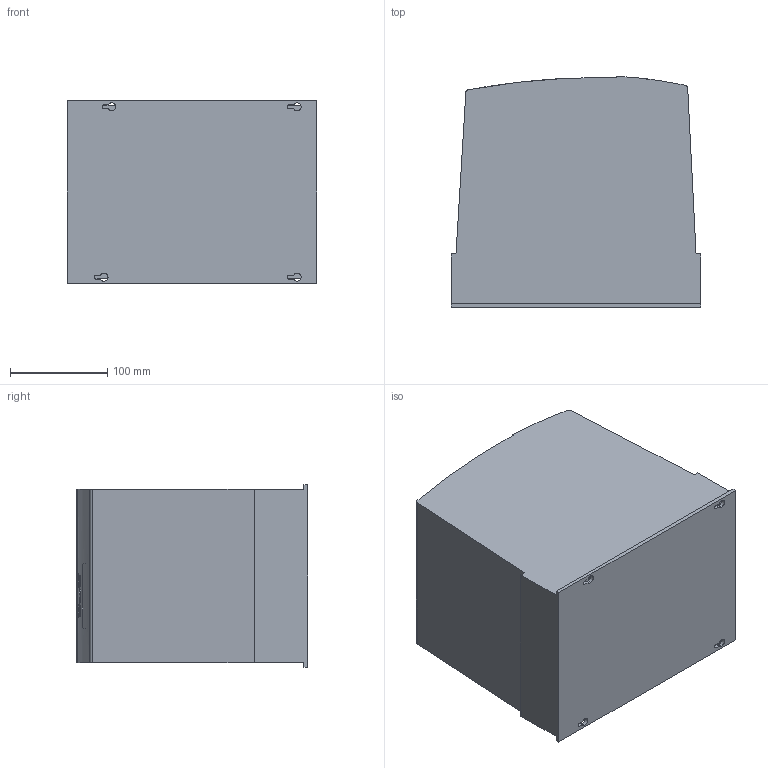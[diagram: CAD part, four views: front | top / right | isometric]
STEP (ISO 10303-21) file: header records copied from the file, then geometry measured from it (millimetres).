
FILE_DESCRIPTION (( 'STEP AP214' ), '1' );
FILE_NAME ('ECO S2 IP66 NS1.STEP', '2017-08-15T11:22:42', ( '' ), ( '' ), 'SwSTEP 2.0', 'SolidWorks 2017', '' );
FILE_SCHEMA (( 'AUTOMOTIVE_DESIGN' ));
Length unit declared in the file: millimetre
Products named in the file (1): ECO S2 IP66 NS1
Bounding box: 257 x 237.74 x 188 mm (x, y, z)
Volume: 10028407.7 mm3; surface area: 287639.1 mm2
Topology: 1 solids, 1 shells, 209 faces, 535 edges, 354 vertices
Faces by surface type: plane 97, cylinder 92, bspline 20
Entity records: 7312 total; most frequent: CARTESIAN_POINT 2516, ORIENTED_EDGE 1070, DIRECTION 859, EDGE_CURVE 535, VERTEX_POINT 354, AXIS2_PLACEMENT_3D 298, VECTOR 263, LINE 263
